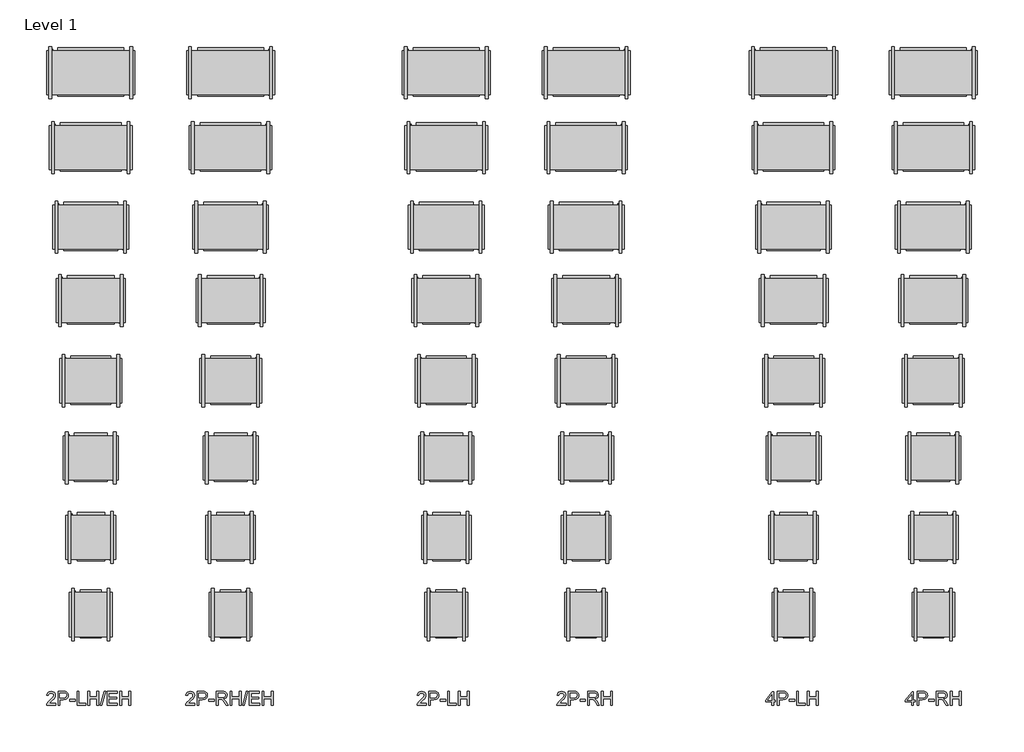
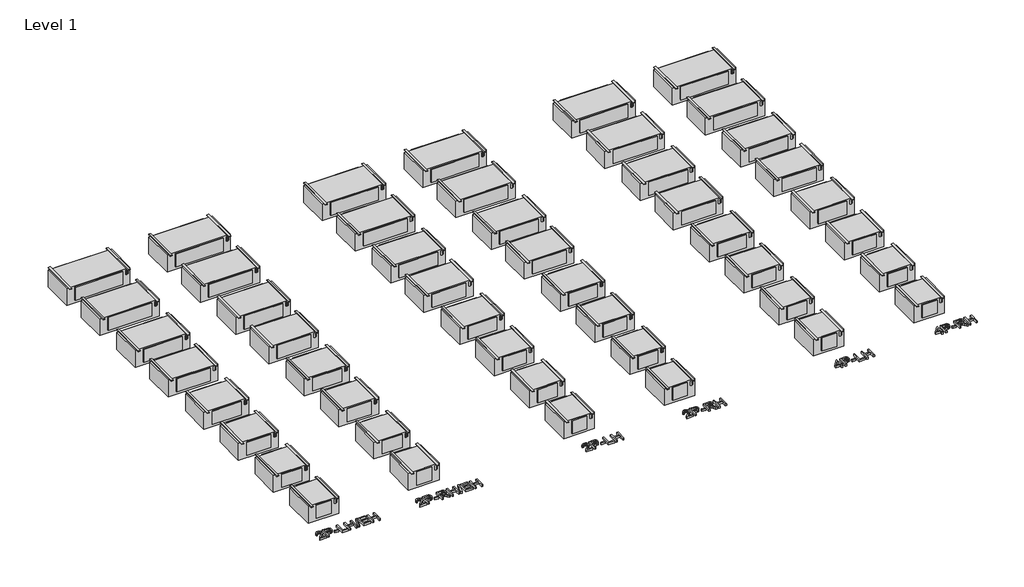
# One storey: 54 proxies.
"""IFC4 building model written with IfcOpenShell, lengths in millimetres."""

from ifc_helpers import new_model, si_unit, origin, origin_with_axes, place, context, project, spatial, polyline, outline, extrude, transform, mapped, element, save
from components import mechanical_equipment_0900cb2e, mechanical_equipment_621a45fb, mechanical_equipment_72f71f54, mechanical_equipment_fdf8b054, mechanical_equipment_0d51c659, mechanical_equipment_b07f00d8, mechanical_equipment_48f2cf5c, mechanical_equipment_720b4839, mechanical_equipment_ffe0c2fb, mechanical_equipment_d076b388, mechanical_equipment_d20f1ccc, mechanical_equipment_d6c2aec6, mechanical_equipment_b749e281, mechanical_equipment_70990f69, mechanical_equipment_768bd8f3, mechanical_equipment_ef4fce89, mechanical_equipment_047bc574, mechanical_equipment_74f1de3b, mechanical_equipment_601507ec, mechanical_equipment_d97851a5, mechanical_equipment_c078d1ac, mechanical_equipment_deb2db8a, mechanical_equipment_18be34ff, mechanical_equipment_be7d65b0, mechanical_equipment_0bdab6c6, mechanical_equipment_6d73ec35, mechanical_equipment_8e86c83e, mechanical_equipment_52986122, mechanical_equipment_d192ed12, mechanical_equipment_969e5153, mechanical_equipment_1356e08d, mechanical_equipment_b50143e9

model = new_model("IFC4")

# Units and contexts
model_context = context("Model", 3, world=origin())
ifc_project = project(units=[si_unit("LENGTHUNIT", "METRE", prefix="MILLI")], contexts=[model_context])

# Site, building, storey
site = spatial("IfcSite", under=ifc_project)
building = spatial("IfcBuilding", under=site)
storey = spatial("IfcBuildingStorey", under=building, Name="Level 1", Elevation=0.0)

# Proxies
placement = place(None, origin())
mechanical_equipment_shape = mechanical_equipment_0900cb2e(model_context)
element("IfcBuildingElementProxy", 1, Name="Concealed_High_Capacity_Horizontal_Cabinet_Fan_Coil_Unit_-_HXY_-_IEC_-_2-Pipe_Cool-EHeat_LH_2022 : Size 06 - 277v/60Hz/1Ph - 6 Row 4.0kW", ObjectType="Concealed_High_Capacity_Horizontal_Cabinet_Fan_Coil_Unit_-_HXY_-_IEC_-_2-Pipe_Cool-EHeat_LH_2022 : Size 06 - 277v/60Hz/1Ph - 6 Row 4.0kW", at=placement, inside=storey, context=model_context, shape_type="MappedRepresentation", body=[
    mapped(mechanical_equipment_shape, transform((-35808.0994409, -7953.1737887, 0.0), x_axis=(1.0, 0.0, 0.0), y_axis=(0.0, 1.0, 0.0), z_axis=(0.0, 0.0, 1.0))),
])
mechanical_equipment_2_shape = mechanical_equipment_621a45fb(model_context)
element("IfcBuildingElementProxy", 2, Name="Concealed_High_Capacity_Horizontal_Cabinet_Fan_Coil_Unit_-_HXY_-_IEC_-_2-Pipe_Cool-EHeat_LH_2022 : Size 08 - 277v/60Hz/1Ph - 6 Row 6.0kW", ObjectType="Concealed_High_Capacity_Horizontal_Cabinet_Fan_Coil_Unit_-_HXY_-_IEC_-_2-Pipe_Cool-EHeat_LH_2022 : Size 08 - 277v/60Hz/1Ph - 6 Row 6.0kW", at=placement, inside=storey, context=model_context, shape_type="MappedRepresentation", body=[
    mapped(mechanical_equipment_2_shape, transform((-35808.0994409, -6529.1242089, 0.0), x_axis=(1.0, 0.0, 0.0), y_axis=(0.0, 1.0, 0.0), z_axis=(0.0, 0.0, 1.0))),
])
mechanical_equipment_3_shape = mechanical_equipment_72f71f54(model_context)
element("IfcBuildingElementProxy", 3, Name="Concealed_High_Capacity_Horizontal_Cabinet_Fan_Coil_Unit_-_HXY_-_IEC_-_2-Pipe_Cool-EHeat_LH_2022 : Size 10 - 277v/60Hz/1Ph - 6 Row 7.0kW", ObjectType="Concealed_High_Capacity_Horizontal_Cabinet_Fan_Coil_Unit_-_HXY_-_IEC_-_2-Pipe_Cool-EHeat_LH_2022 : Size 10 - 277v/60Hz/1Ph - 6 Row 7.0kW", at=placement, inside=storey, context=model_context, shape_type="MappedRepresentation", body=[
    mapped(mechanical_equipment_3_shape, transform((-35808.0994409, -5064.3874982, 0.0), x_axis=(1.0, 0.0, 0.0), y_axis=(0.0, 1.0, 0.0), z_axis=(0.0, 0.0, 1.0))),
])
mechanical_equipment_4_shape = mechanical_equipment_fdf8b054(model_context)
element("IfcBuildingElementProxy", 4, Name="Concealed_High_Capacity_Horizontal_Cabinet_Fan_Coil_Unit_-_HXY_-_IEC_-_2-Pipe_Cool-EHeat_LH_2022 : Size 12 - 277v/60Hz/1Ph - 6 Row 9.0kW", ObjectType="Concealed_High_Capacity_Horizontal_Cabinet_Fan_Coil_Unit_-_HXY_-_IEC_-_2-Pipe_Cool-EHeat_LH_2022 : Size 12 - 277v/60Hz/1Ph - 6 Row 9.0kW", at=placement, inside=storey, context=model_context, shape_type="MappedRepresentation", body=[
    mapped(mechanical_equipment_4_shape, transform((-35808.0994409, -3640.3379184, 0.0), x_axis=(1.0, 0.0, 0.0), y_axis=(0.0, 1.0, 0.0), z_axis=(0.0, 0.0, 1.0))),
])
mechanical_equipment_5_shape = mechanical_equipment_0d51c659(model_context)
element("IfcBuildingElementProxy", 5, Name="Concealed_High_Capacity_Horizontal_Cabinet_Fan_Coil_Unit_-_HXY_-_IEC_-_2-Pipe_Cool-EHeat_LH_2022 : Size 14 - 277v/60Hz/1Ph - 6 Row 10.0kW", ObjectType="Concealed_High_Capacity_Horizontal_Cabinet_Fan_Coil_Unit_-_HXY_-_IEC_-_2-Pipe_Cool-EHeat_LH_2022 : Size 14 - 277v/60Hz/1Ph - 6 Row 10.0kW", at=placement, inside=storey, context=model_context, shape_type="MappedRepresentation", body=[
    mapped(mechanical_equipment_5_shape, transform((-35808.0994409, -2162.0388308, 0.0), x_axis=(1.0, 0.0, 0.0), y_axis=(0.0, 1.0, 0.0), z_axis=(0.0, 0.0, 1.0))),
])
mechanical_equipment_6_shape = mechanical_equipment_b07f00d8(model_context)
element("IfcBuildingElementProxy", 6, Name="Concealed_High_Capacity_Horizontal_Cabinet_Fan_Coil_Unit_-_HXY_-_IEC_-_2-Pipe_Cool-EHeat_LH_2022 : Size 16 - 277v/60Hz/1Ph - 6 Row 12.0kW", ObjectType="Concealed_High_Capacity_Horizontal_Cabinet_Fan_Coil_Unit_-_HXY_-_IEC_-_2-Pipe_Cool-EHeat_LH_2022 : Size 16 - 277v/60Hz/1Ph - 6 Row 12.0kW", at=placement, inside=storey, context=model_context, shape_type="MappedRepresentation", body=[
    mapped(mechanical_equipment_6_shape, transform((-35808.0994409, -805.8011357, 0.0), x_axis=(1.0, 0.0, 0.0), y_axis=(0.0, 1.0, 0.0), z_axis=(0.0, 0.0, 1.0))),
])
mechanical_equipment_7_shape = mechanical_equipment_48f2cf5c(model_context)
element("IfcBuildingElementProxy", 7, Name="Concealed_High_Capacity_Horizontal_Cabinet_Fan_Coil_Unit_-_HXY_-_IEC_-_2-Pipe_Cool-EHeat_LH_2022 : Size 18 - 277v/60Hz/1Ph - 6 Row 12.0kW", ObjectType="Concealed_High_Capacity_Horizontal_Cabinet_Fan_Coil_Unit_-_HXY_-_IEC_-_2-Pipe_Cool-EHeat_LH_2022 : Size 18 - 277v/60Hz/1Ph - 6 Row 12.0kW", at=placement, inside=storey, context=model_context, shape_type="MappedRepresentation", body=[
    mapped(mechanical_equipment_7_shape, transform((-35808.0994409, 658.9355749, 0.0), x_axis=(1.0, 0.0, 0.0), y_axis=(0.0, 1.0, 0.0), z_axis=(0.0, 0.0, 1.0))),
])
mechanical_equipment_8_shape = mechanical_equipment_720b4839(model_context)
element("IfcBuildingElementProxy", 8, Name="Concealed_High_Capacity_Horizontal_Cabinet_Fan_Coil_Unit_-_HXY_-_IEC_-_2-Pipe_Cool-EHeat_LH_2022 : Size 20 - 277v/60Hz/1Ph - 6 Row 14.0kW", ObjectType="Concealed_High_Capacity_Horizontal_Cabinet_Fan_Coil_Unit_-_HXY_-_IEC_-_2-Pipe_Cool-EHeat_LH_2022 : Size 20 - 277v/60Hz/1Ph - 6 Row 14.0kW", at=placement, inside=storey, context=model_context, shape_type="MappedRepresentation", body=[
    mapped(mechanical_equipment_8_shape, transform((-35808.0994409, 2042.2980239, 0.0), x_axis=(1.0, 0.0, 0.0), y_axis=(0.0, 1.0, 0.0), z_axis=(0.0, 0.0, 1.0))),
])
mechanical_equipment_9_shape = mechanical_equipment_ffe0c2fb(model_context)
element("IfcBuildingElementProxy", 9, Name="Concealed_High_Capacity_Horizontal_Cabinet_Fan_Coil_Unit_-_HXY_-_IEC_-_4-Pipe_LH_2022 : Size 06 - 277v/60Hz/1Ph - 6/2 Coil", ObjectType="Concealed_High_Capacity_Horizontal_Cabinet_Fan_Coil_Unit_-_HXY_-_IEC_-_4-Pipe_LH_2022 : Size 06 - 277v/60Hz/1Ph - 6/2 Coil", at=placement, inside=storey, context=model_context, shape_type="MappedRepresentation", body=[
    mapped(mechanical_equipment_9_shape, transform((-22854.0994409, -7953.1737887, 0.0), x_axis=(1.0, 0.0, 0.0), y_axis=(0.0, 1.0, 0.0), z_axis=(0.0, 0.0, 1.0))),
])
mechanical_equipment_10_shape = mechanical_equipment_d076b388(model_context)
element("IfcBuildingElementProxy", 10, Name="Concealed_High_Capacity_Horizontal_Cabinet_Fan_Coil_Unit_-_HXY_-_IEC_-_4-Pipe_LH_2022 : Size 08 - 277v/60Hz/1Ph - 6/2 Coil", ObjectType="Concealed_High_Capacity_Horizontal_Cabinet_Fan_Coil_Unit_-_HXY_-_IEC_-_4-Pipe_LH_2022 : Size 08 - 277v/60Hz/1Ph - 6/2 Coil", at=placement, inside=storey, context=model_context, shape_type="MappedRepresentation", body=[
    mapped(mechanical_equipment_10_shape, transform((-22854.0994409, -6529.1242089, 0.0), x_axis=(1.0, 0.0, 0.0), y_axis=(0.0, 1.0, 0.0), z_axis=(0.0, 0.0, 1.0))),
])
mechanical_equipment_11_shape = mechanical_equipment_d20f1ccc(model_context)
element("IfcBuildingElementProxy", 11, Name="Concealed_High_Capacity_Horizontal_Cabinet_Fan_Coil_Unit_-_HXY_-_IEC_-_4-Pipe_LH_2022 : Size 10 - 277v/60Hz/1Ph - 6/2 Coil", ObjectType="Concealed_High_Capacity_Horizontal_Cabinet_Fan_Coil_Unit_-_HXY_-_IEC_-_4-Pipe_LH_2022 : Size 10 - 277v/60Hz/1Ph - 6/2 Coil", at=placement, inside=storey, context=model_context, shape_type="MappedRepresentation", body=[
    mapped(mechanical_equipment_11_shape, transform((-22854.0994409, -5064.3874982, 0.0), x_axis=(1.0, 0.0, 0.0), y_axis=(0.0, 1.0, 0.0), z_axis=(0.0, 0.0, 1.0))),
])
mechanical_equipment_12_shape = mechanical_equipment_d6c2aec6(model_context)
element("IfcBuildingElementProxy", 12, Name="Concealed_High_Capacity_Horizontal_Cabinet_Fan_Coil_Unit_-_HXY_-_IEC_-_4-Pipe_LH_2022 : Size 12 - 277v/60Hz/1Ph - 6/2 Coil", ObjectType="Concealed_High_Capacity_Horizontal_Cabinet_Fan_Coil_Unit_-_HXY_-_IEC_-_4-Pipe_LH_2022 : Size 12 - 277v/60Hz/1Ph - 6/2 Coil", at=placement, inside=storey, context=model_context, shape_type="MappedRepresentation", body=[
    mapped(mechanical_equipment_12_shape, transform((-22854.0994409, -3640.3379184, 0.0), x_axis=(1.0, 0.0, 0.0), y_axis=(0.0, 1.0, 0.0), z_axis=(0.0, 0.0, 1.0))),
])
mechanical_equipment_13_shape = mechanical_equipment_b749e281(model_context)
element("IfcBuildingElementProxy", 13, Name="Concealed_High_Capacity_Horizontal_Cabinet_Fan_Coil_Unit_-_HXY_-_IEC_-_4-Pipe_LH_2022 : Size 14 - 277v/60Hz/1Ph - 6/2 Coil", ObjectType="Concealed_High_Capacity_Horizontal_Cabinet_Fan_Coil_Unit_-_HXY_-_IEC_-_4-Pipe_LH_2022 : Size 14 - 277v/60Hz/1Ph - 6/2 Coil", at=placement, inside=storey, context=model_context, shape_type="MappedRepresentation", body=[
    mapped(mechanical_equipment_13_shape, transform((-22854.0994409, -2162.0388308, 0.0), x_axis=(1.0, 0.0, 0.0), y_axis=(0.0, 1.0, 0.0), z_axis=(0.0, 0.0, 1.0))),
])
mechanical_equipment_14_shape = mechanical_equipment_70990f69(model_context)
element("IfcBuildingElementProxy", 14, Name="Concealed_High_Capacity_Horizontal_Cabinet_Fan_Coil_Unit_-_HXY_-_IEC_-_4-Pipe_LH_2022 : Size 16 - 277v/60Hz/1Ph - 6/2 Coil", ObjectType="Concealed_High_Capacity_Horizontal_Cabinet_Fan_Coil_Unit_-_HXY_-_IEC_-_4-Pipe_LH_2022 : Size 16 - 277v/60Hz/1Ph - 6/2 Coil", at=placement, inside=storey, context=model_context, shape_type="MappedRepresentation", body=[
    mapped(mechanical_equipment_14_shape, transform((-22854.0994409, -805.8011357, 0.0), x_axis=(1.0, 0.0, 0.0), y_axis=(0.0, 1.0, 0.0), z_axis=(0.0, 0.0, 1.0))),
])
mechanical_equipment_15_shape = mechanical_equipment_768bd8f3(model_context)
element("IfcBuildingElementProxy", 15, Name="Concealed_High_Capacity_Horizontal_Cabinet_Fan_Coil_Unit_-_HXY_-_IEC_-_4-Pipe_LH_2022 : Size 18 - 277v/60Hz/1Ph - 6/2 Coil", ObjectType="Concealed_High_Capacity_Horizontal_Cabinet_Fan_Coil_Unit_-_HXY_-_IEC_-_4-Pipe_LH_2022 : Size 18 - 277v/60Hz/1Ph - 6/2 Coil", at=placement, inside=storey, context=model_context, shape_type="MappedRepresentation", body=[
    mapped(mechanical_equipment_15_shape, transform((-22854.0994409, 658.9355749, 0.0), x_axis=(1.0, 0.0, 0.0), y_axis=(0.0, 1.0, 0.0), z_axis=(0.0, 0.0, 1.0))),
])
mechanical_equipment_16_shape = mechanical_equipment_ef4fce89(model_context)
element("IfcBuildingElementProxy", 16, Name="Concealed_High_Capacity_Horizontal_Cabinet_Fan_Coil_Unit_-_HXY_-_IEC_-_4-Pipe_LH_2022 : Size 20 - 277v/60Hz/1Ph - 6/2 Coil", ObjectType="Concealed_High_Capacity_Horizontal_Cabinet_Fan_Coil_Unit_-_HXY_-_IEC_-_4-Pipe_LH_2022 : Size 20 - 277v/60Hz/1Ph - 6/2 Coil", at=placement, inside=storey, context=model_context, shape_type="MappedRepresentation", body=[
    mapped(mechanical_equipment_16_shape, transform((-22854.0994409, 2042.2980239, 0.0), x_axis=(1.0, 0.0, 0.0), y_axis=(0.0, 1.0, 0.0), z_axis=(0.0, 0.0, 1.0))),
])
mechanical_equipment_17_shape = mechanical_equipment_047bc574(model_context)
element("IfcBuildingElementProxy", 17, Name="Concealed_High_Capacity_Horizontal_Cabinet_Fan_Coil_Unit_-_HXY_-_IEC_-_2-Pipe_Cool-EHeat_RH_2022 : Size 06 - 277v/60Hz/1Ph - 6 Row 4.0kW", ObjectType="Concealed_High_Capacity_Horizontal_Cabinet_Fan_Coil_Unit_-_HXY_-_IEC_-_2-Pipe_Cool-EHeat_RH_2022 : Size 06 - 277v/60Hz/1Ph - 6 Row 4.0kW", at=placement, inside=storey, context=model_context, shape_type="MappedRepresentation", body=[
    mapped(mechanical_equipment_17_shape, transform((-33231.2478203, -7953.1737887, 0.0), x_axis=(1.0, 0.0, 0.0), y_axis=(0.0, 1.0, 0.0), z_axis=(0.0, 0.0, 1.0))),
])
mechanical_equipment_18_shape = mechanical_equipment_74f1de3b(model_context)
element("IfcBuildingElementProxy", 18, Name="Concealed_High_Capacity_Horizontal_Cabinet_Fan_Coil_Unit_-_HXY_-_IEC_-_2-Pipe_Cool-EHeat_RH_2022 : Size 08 - 277v/60Hz/1Ph - 6 Row 6.0kW", ObjectType="Concealed_High_Capacity_Horizontal_Cabinet_Fan_Coil_Unit_-_HXY_-_IEC_-_2-Pipe_Cool-EHeat_RH_2022 : Size 08 - 277v/60Hz/1Ph - 6 Row 6.0kW", at=placement, inside=storey, context=model_context, shape_type="MappedRepresentation", body=[
    mapped(mechanical_equipment_18_shape, transform((-33231.2478203, -6529.1242089, 0.0), x_axis=(1.0, 0.0, 0.0), y_axis=(0.0, 1.0, 0.0), z_axis=(0.0, 0.0, 1.0))),
])
mechanical_equipment_19_shape = mechanical_equipment_601507ec(model_context)
element("IfcBuildingElementProxy", 19, Name="Concealed_High_Capacity_Horizontal_Cabinet_Fan_Coil_Unit_-_HXY_-_IEC_-_2-Pipe_Cool-EHeat_RH_2022 : Size 10 - 277v/60Hz/1Ph - 6 Row 7.0kW", ObjectType="Concealed_High_Capacity_Horizontal_Cabinet_Fan_Coil_Unit_-_HXY_-_IEC_-_2-Pipe_Cool-EHeat_RH_2022 : Size 10 - 277v/60Hz/1Ph - 6 Row 7.0kW", at=placement, inside=storey, context=model_context, shape_type="MappedRepresentation", body=[
    mapped(mechanical_equipment_19_shape, transform((-33231.2478203, -5064.3874982, 0.0), x_axis=(1.0, 0.0, 0.0), y_axis=(0.0, 1.0, 0.0), z_axis=(0.0, 0.0, 1.0))),
])
mechanical_equipment_20_shape = mechanical_equipment_d97851a5(model_context)
element("IfcBuildingElementProxy", 20, Name="Concealed_High_Capacity_Horizontal_Cabinet_Fan_Coil_Unit_-_HXY_-_IEC_-_2-Pipe_Cool-EHeat_RH_2022 : Size 12 - 277v/60Hz/1Ph - 6 Row 9.0kW", ObjectType="Concealed_High_Capacity_Horizontal_Cabinet_Fan_Coil_Unit_-_HXY_-_IEC_-_2-Pipe_Cool-EHeat_RH_2022 : Size 12 - 277v/60Hz/1Ph - 6 Row 9.0kW", at=placement, inside=storey, context=model_context, shape_type="MappedRepresentation", body=[
    mapped(mechanical_equipment_20_shape, transform((-33231.2478203, -3640.3379184, 0.0), x_axis=(1.0, 0.0, 0.0), y_axis=(0.0, 1.0, 0.0), z_axis=(0.0, 0.0, 1.0))),
])
mechanical_equipment_21_shape = mechanical_equipment_c078d1ac(model_context)
element("IfcBuildingElementProxy", 21, Name="Concealed_High_Capacity_Horizontal_Cabinet_Fan_Coil_Unit_-_HXY_-_IEC_-_2-Pipe_Cool-EHeat_RH_2022 : Size 14 - 277v/60Hz/1Ph - 6 Row 10.0kW", ObjectType="Concealed_High_Capacity_Horizontal_Cabinet_Fan_Coil_Unit_-_HXY_-_IEC_-_2-Pipe_Cool-EHeat_RH_2022 : Size 14 - 277v/60Hz/1Ph - 6 Row 10.0kW", at=placement, inside=storey, context=model_context, shape_type="MappedRepresentation", body=[
    mapped(mechanical_equipment_21_shape, transform((-33231.2478203, -2162.0388308, 0.0), x_axis=(1.0, 0.0, 0.0), y_axis=(0.0, 1.0, 0.0), z_axis=(0.0, 0.0, 1.0))),
])
mechanical_equipment_22_shape = mechanical_equipment_deb2db8a(model_context)
element("IfcBuildingElementProxy", 22, Name="Concealed_High_Capacity_Horizontal_Cabinet_Fan_Coil_Unit_-_HXY_-_IEC_-_2-Pipe_Cool-EHeat_RH_2022 : Size 16 - 277v/60Hz/1Ph - 6 Row 12.0kW", ObjectType="Concealed_High_Capacity_Horizontal_Cabinet_Fan_Coil_Unit_-_HXY_-_IEC_-_2-Pipe_Cool-EHeat_RH_2022 : Size 16 - 277v/60Hz/1Ph - 6 Row 12.0kW", at=placement, inside=storey, context=model_context, shape_type="MappedRepresentation", body=[
    mapped(mechanical_equipment_22_shape, transform((-33231.2478203, -805.8011357, 0.0), x_axis=(1.0, 0.0, 0.0), y_axis=(0.0, 1.0, 0.0), z_axis=(0.0, 0.0, 1.0))),
])
mechanical_equipment_23_shape = mechanical_equipment_18be34ff(model_context)
element("IfcBuildingElementProxy", 23, Name="Concealed_High_Capacity_Horizontal_Cabinet_Fan_Coil_Unit_-_HXY_-_IEC_-_2-Pipe_Cool-EHeat_RH_2022 : Size 18 - 277v/60Hz/1Ph - 6 Row 12.0kW", ObjectType="Concealed_High_Capacity_Horizontal_Cabinet_Fan_Coil_Unit_-_HXY_-_IEC_-_2-Pipe_Cool-EHeat_RH_2022 : Size 18 - 277v/60Hz/1Ph - 6 Row 12.0kW", at=placement, inside=storey, context=model_context, shape_type="MappedRepresentation", body=[
    mapped(mechanical_equipment_23_shape, transform((-33231.2478203, 658.9355749, 0.0), x_axis=(1.0, 0.0, 0.0), y_axis=(0.0, 1.0, 0.0), z_axis=(0.0, 0.0, 1.0))),
])
mechanical_equipment_24_shape = mechanical_equipment_be7d65b0(model_context)
element("IfcBuildingElementProxy", 24, Name="Concealed_High_Capacity_Horizontal_Cabinet_Fan_Coil_Unit_-_HXY_-_IEC_-_2-Pipe_Cool-EHeat_RH_2022 : Size 20 - 277v/60Hz/1Ph - 6 Row 14.0kW", ObjectType="Concealed_High_Capacity_Horizontal_Cabinet_Fan_Coil_Unit_-_HXY_-_IEC_-_2-Pipe_Cool-EHeat_RH_2022 : Size 20 - 277v/60Hz/1Ph - 6 Row 14.0kW", at=placement, inside=storey, context=model_context, shape_type="MappedRepresentation", body=[
    mapped(mechanical_equipment_24_shape, transform((-33231.2478203, 2042.2980239, 0.0), x_axis=(1.0, 0.0, 0.0), y_axis=(0.0, 1.0, 0.0), z_axis=(0.0, 0.0, 1.0))),
])
element("IfcBuildingElementProxy", 25, Name="Concealed_High_Capacity_Horizontal_Cabinet_Fan_Coil_Unit_-_HXY_-_IEC_-_2-Pipe_LH_2022 : Size 06 - 277v/60Hz/1Ph - 6 Row 4.0kW", ObjectType="Concealed_High_Capacity_Horizontal_Cabinet_Fan_Coil_Unit_-_HXY_-_IEC_-_2-Pipe_LH_2022 : Size 06 - 277v/60Hz/1Ph - 6 Row 4.0kW", at=placement, inside=storey, context=model_context, shape_type="MappedRepresentation", body=[
    mapped(mechanical_equipment_shape, transform((-29254.8994409, -7953.1737887, 0.0), x_axis=(1.0, 0.0, 0.0), y_axis=(0.0, 1.0, 0.0), z_axis=(0.0, 0.0, 1.0))),
])
element("IfcBuildingElementProxy", 26, Name="Concealed_High_Capacity_Horizontal_Cabinet_Fan_Coil_Unit_-_HXY_-_IEC_-_2-Pipe_LH_2022 : Size 08 - 277v/60Hz/1Ph - 6 Row 6.0kW", ObjectType="Concealed_High_Capacity_Horizontal_Cabinet_Fan_Coil_Unit_-_HXY_-_IEC_-_2-Pipe_LH_2022 : Size 08 - 277v/60Hz/1Ph - 6 Row 6.0kW", at=placement, inside=storey, context=model_context, shape_type="MappedRepresentation", body=[
    mapped(mechanical_equipment_2_shape, transform((-29254.8994409, -6529.1242089, 0.0), x_axis=(1.0, 0.0, 0.0), y_axis=(0.0, 1.0, 0.0), z_axis=(0.0, 0.0, 1.0))),
])
element("IfcBuildingElementProxy", 27, Name="Concealed_High_Capacity_Horizontal_Cabinet_Fan_Coil_Unit_-_HXY_-_IEC_-_2-Pipe_LH_2022 : Size 10 - 277v/60Hz/1Ph - 6 Row 7.0kW", ObjectType="Concealed_High_Capacity_Horizontal_Cabinet_Fan_Coil_Unit_-_HXY_-_IEC_-_2-Pipe_LH_2022 : Size 10 - 277v/60Hz/1Ph - 6 Row 7.0kW", at=placement, inside=storey, context=model_context, shape_type="MappedRepresentation", body=[
    mapped(mechanical_equipment_3_shape, transform((-29254.8994409, -5064.3874982, 0.0), x_axis=(1.0, 0.0, 0.0), y_axis=(0.0, 1.0, 0.0), z_axis=(0.0, 0.0, 1.0))),
])
element("IfcBuildingElementProxy", 28, Name="Concealed_High_Capacity_Horizontal_Cabinet_Fan_Coil_Unit_-_HXY_-_IEC_-_2-Pipe_LH_2022 : Size 12 - 277v/60Hz/1Ph - 6 Row 9.0kW", ObjectType="Concealed_High_Capacity_Horizontal_Cabinet_Fan_Coil_Unit_-_HXY_-_IEC_-_2-Pipe_LH_2022 : Size 12 - 277v/60Hz/1Ph - 6 Row 9.0kW", at=placement, inside=storey, context=model_context, shape_type="MappedRepresentation", body=[
    mapped(mechanical_equipment_4_shape, transform((-29254.8994409, -3640.3379184, 0.0), x_axis=(1.0, 0.0, 0.0), y_axis=(0.0, 1.0, 0.0), z_axis=(0.0, 0.0, 1.0))),
])
element("IfcBuildingElementProxy", 29, Name="Concealed_High_Capacity_Horizontal_Cabinet_Fan_Coil_Unit_-_HXY_-_IEC_-_2-Pipe_LH_2022 : Size 14 - 277v/60Hz/1Ph - 6 Row 10.0kW", ObjectType="Concealed_High_Capacity_Horizontal_Cabinet_Fan_Coil_Unit_-_HXY_-_IEC_-_2-Pipe_LH_2022 : Size 14 - 277v/60Hz/1Ph - 6 Row 10.0kW", at=placement, inside=storey, context=model_context, shape_type="MappedRepresentation", body=[
    mapped(mechanical_equipment_5_shape, transform((-29254.8994409, -2162.0388308, 0.0), x_axis=(1.0, 0.0, 0.0), y_axis=(0.0, 1.0, 0.0), z_axis=(0.0, 0.0, 1.0))),
])
element("IfcBuildingElementProxy", 30, Name="Concealed_High_Capacity_Horizontal_Cabinet_Fan_Coil_Unit_-_HXY_-_IEC_-_2-Pipe_LH_2022 : Size 16 - 277v/60Hz/1Ph - 6 Row 12.0kW", ObjectType="Concealed_High_Capacity_Horizontal_Cabinet_Fan_Coil_Unit_-_HXY_-_IEC_-_2-Pipe_LH_2022 : Size 16 - 277v/60Hz/1Ph - 6 Row 12.0kW", at=placement, inside=storey, context=model_context, shape_type="MappedRepresentation", body=[
    mapped(mechanical_equipment_6_shape, transform((-29254.8994409, -805.8011357, 0.0), x_axis=(1.0, 0.0, 0.0), y_axis=(0.0, 1.0, 0.0), z_axis=(0.0, 0.0, 1.0))),
])
element("IfcBuildingElementProxy", 31, Name="Concealed_High_Capacity_Horizontal_Cabinet_Fan_Coil_Unit_-_HXY_-_IEC_-_2-Pipe_LH_2022 : Size 18 - 277v/60Hz/1Ph - 6 Row 12.0kW", ObjectType="Concealed_High_Capacity_Horizontal_Cabinet_Fan_Coil_Unit_-_HXY_-_IEC_-_2-Pipe_LH_2022 : Size 18 - 277v/60Hz/1Ph - 6 Row 12.0kW", at=placement, inside=storey, context=model_context, shape_type="MappedRepresentation", body=[
    mapped(mechanical_equipment_7_shape, transform((-29254.8994409, 658.9355749, 0.0), x_axis=(1.0, 0.0, 0.0), y_axis=(0.0, 1.0, 0.0), z_axis=(0.0, 0.0, 1.0))),
])
element("IfcBuildingElementProxy", 32, Name="Concealed_High_Capacity_Horizontal_Cabinet_Fan_Coil_Unit_-_HXY_-_IEC_-_2-Pipe_LH_2022 : Size 20 - 277v/60Hz/1Ph - 6 Row 14.0kW", ObjectType="Concealed_High_Capacity_Horizontal_Cabinet_Fan_Coil_Unit_-_HXY_-_IEC_-_2-Pipe_LH_2022 : Size 20 - 277v/60Hz/1Ph - 6 Row 14.0kW", at=placement, inside=storey, context=model_context, shape_type="MappedRepresentation", body=[
    mapped(mechanical_equipment_8_shape, transform((-29254.8994409, 2042.2980239, 0.0), x_axis=(1.0, 0.0, 0.0), y_axis=(0.0, 1.0, 0.0), z_axis=(0.0, 0.0, 1.0))),
])
element("IfcBuildingElementProxy", 33, Name="Concealed_High_Capacity_Horizontal_Cabinet_Fan_Coil_Unit_-_HXY_-_IEC_-_2-Pipe_RH_2022 : Size 06 - 277v/60Hz/1Ph - 6 Row 4.0kW", ObjectType="Concealed_High_Capacity_Horizontal_Cabinet_Fan_Coil_Unit_-_HXY_-_IEC_-_2-Pipe_RH_2022 : Size 06 - 277v/60Hz/1Ph - 6 Row 4.0kW", at=placement, inside=storey, context=model_context, shape_type="MappedRepresentation", body=[
    mapped(mechanical_equipment_17_shape, transform((-26678.0478203, -7953.1737887, 0.0), x_axis=(1.0, 0.0, 0.0), y_axis=(0.0, 1.0, 0.0), z_axis=(0.0, 0.0, 1.0))),
])
element("IfcBuildingElementProxy", 34, Name="Concealed_High_Capacity_Horizontal_Cabinet_Fan_Coil_Unit_-_HXY_-_IEC_-_2-Pipe_RH_2022 : Size 08 - 277v/60Hz/1Ph - 6 Row 6.0kW", ObjectType="Concealed_High_Capacity_Horizontal_Cabinet_Fan_Coil_Unit_-_HXY_-_IEC_-_2-Pipe_RH_2022 : Size 08 - 277v/60Hz/1Ph - 6 Row 6.0kW", at=placement, inside=storey, context=model_context, shape_type="MappedRepresentation", body=[
    mapped(mechanical_equipment_18_shape, transform((-26678.0478203, -6529.1242089, 0.0), x_axis=(1.0, 0.0, 0.0), y_axis=(0.0, 1.0, 0.0), z_axis=(0.0, 0.0, 1.0))),
])
element("IfcBuildingElementProxy", 35, Name="Concealed_High_Capacity_Horizontal_Cabinet_Fan_Coil_Unit_-_HXY_-_IEC_-_2-Pipe_RH_2022 : Size 10 - 277v/60Hz/1Ph - 6 Row 7.0kW", ObjectType="Concealed_High_Capacity_Horizontal_Cabinet_Fan_Coil_Unit_-_HXY_-_IEC_-_2-Pipe_RH_2022 : Size 10 - 277v/60Hz/1Ph - 6 Row 7.0kW", at=placement, inside=storey, context=model_context, shape_type="MappedRepresentation", body=[
    mapped(mechanical_equipment_19_shape, transform((-26678.0478203, -5064.3874982, 0.0), x_axis=(1.0, 0.0, 0.0), y_axis=(0.0, 1.0, 0.0), z_axis=(0.0, 0.0, 1.0))),
])
element("IfcBuildingElementProxy", 36, Name="Concealed_High_Capacity_Horizontal_Cabinet_Fan_Coil_Unit_-_HXY_-_IEC_-_2-Pipe_RH_2022 : Size 12 - 277v/60Hz/1Ph - 6 Row 9.0kW", ObjectType="Concealed_High_Capacity_Horizontal_Cabinet_Fan_Coil_Unit_-_HXY_-_IEC_-_2-Pipe_RH_2022 : Size 12 - 277v/60Hz/1Ph - 6 Row 9.0kW", at=placement, inside=storey, context=model_context, shape_type="MappedRepresentation", body=[
    mapped(mechanical_equipment_20_shape, transform((-26678.0478203, -3640.3379184, 0.0), x_axis=(1.0, 0.0, 0.0), y_axis=(0.0, 1.0, 0.0), z_axis=(0.0, 0.0, 1.0))),
])
element("IfcBuildingElementProxy", 37, Name="Concealed_High_Capacity_Horizontal_Cabinet_Fan_Coil_Unit_-_HXY_-_IEC_-_2-Pipe_RH_2022 : Size 14 - 277v/60Hz/1Ph - 6 Row 10.0kW", ObjectType="Concealed_High_Capacity_Horizontal_Cabinet_Fan_Coil_Unit_-_HXY_-_IEC_-_2-Pipe_RH_2022 : Size 14 - 277v/60Hz/1Ph - 6 Row 10.0kW", at=placement, inside=storey, context=model_context, shape_type="MappedRepresentation", body=[
    mapped(mechanical_equipment_21_shape, transform((-26678.0478203, -2162.0388308, 0.0), x_axis=(1.0, 0.0, 0.0), y_axis=(0.0, 1.0, 0.0), z_axis=(0.0, 0.0, 1.0))),
])
element("IfcBuildingElementProxy", 38, Name="Concealed_High_Capacity_Horizontal_Cabinet_Fan_Coil_Unit_-_HXY_-_IEC_-_2-Pipe_RH_2022 : Size 16 - 277v/60Hz/1Ph - 6 Row 12.0kW", ObjectType="Concealed_High_Capacity_Horizontal_Cabinet_Fan_Coil_Unit_-_HXY_-_IEC_-_2-Pipe_RH_2022 : Size 16 - 277v/60Hz/1Ph - 6 Row 12.0kW", at=placement, inside=storey, context=model_context, shape_type="MappedRepresentation", body=[
    mapped(mechanical_equipment_22_shape, transform((-26678.0478203, -805.8011357, 0.0), x_axis=(1.0, 0.0, 0.0), y_axis=(0.0, 1.0, 0.0), z_axis=(0.0, 0.0, 1.0))),
])
element("IfcBuildingElementProxy", 39, Name="Concealed_High_Capacity_Horizontal_Cabinet_Fan_Coil_Unit_-_HXY_-_IEC_-_2-Pipe_RH_2022 : Size 18 - 277v/60Hz/1Ph - 6 Row 12.0kW", ObjectType="Concealed_High_Capacity_Horizontal_Cabinet_Fan_Coil_Unit_-_HXY_-_IEC_-_2-Pipe_RH_2022 : Size 18 - 277v/60Hz/1Ph - 6 Row 12.0kW", at=placement, inside=storey, context=model_context, shape_type="MappedRepresentation", body=[
    mapped(mechanical_equipment_23_shape, transform((-26678.0478203, 658.9355749, 0.0), x_axis=(1.0, 0.0, 0.0), y_axis=(0.0, 1.0, 0.0), z_axis=(0.0, 0.0, 1.0))),
])
element("IfcBuildingElementProxy", 40, Name="Concealed_High_Capacity_Horizontal_Cabinet_Fan_Coil_Unit_-_HXY_-_IEC_-_2-Pipe_RH_2022 : Size 20 - 277v/60Hz/1Ph - 6 Row 14.0kW", ObjectType="Concealed_High_Capacity_Horizontal_Cabinet_Fan_Coil_Unit_-_HXY_-_IEC_-_2-Pipe_RH_2022 : Size 20 - 277v/60Hz/1Ph - 6 Row 14.0kW", at=placement, inside=storey, context=model_context, shape_type="MappedRepresentation", body=[
    mapped(mechanical_equipment_24_shape, transform((-26678.0478203, 2042.2980239, 0.0), x_axis=(1.0, 0.0, 0.0), y_axis=(0.0, 1.0, 0.0), z_axis=(0.0, 0.0, 1.0))),
])
mechanical_equipment_25_shape = mechanical_equipment_0bdab6c6(model_context)
element("IfcBuildingElementProxy", 41, Name="Concealed_High_Capacity_Horizontal_Cabinet_Fan_Coil_Unit_-_HXY_-_IEC_-_4-Pipe_RH_2022 : Size 06 - 277v/60Hz/1Ph - 6/2 Coil", ObjectType="Concealed_High_Capacity_Horizontal_Cabinet_Fan_Coil_Unit_-_HXY_-_IEC_-_4-Pipe_RH_2022 : Size 06 - 277v/60Hz/1Ph - 6/2 Coil", at=placement, inside=storey, context=model_context, shape_type="MappedRepresentation", body=[
    mapped(mechanical_equipment_25_shape, transform((-20277.2478203, -7953.1737887, 0.0), x_axis=(1.0, 0.0, 0.0), y_axis=(0.0, 1.0, 0.0), z_axis=(0.0, 0.0, 1.0))),
])
mechanical_equipment_26_shape = mechanical_equipment_6d73ec35(model_context)
element("IfcBuildingElementProxy", 42, Name="Concealed_High_Capacity_Horizontal_Cabinet_Fan_Coil_Unit_-_HXY_-_IEC_-_4-Pipe_RH_2022 : Size 08 - 277v/60Hz/1Ph - 6/2 Coil", ObjectType="Concealed_High_Capacity_Horizontal_Cabinet_Fan_Coil_Unit_-_HXY_-_IEC_-_4-Pipe_RH_2022 : Size 08 - 277v/60Hz/1Ph - 6/2 Coil", at=placement, inside=storey, context=model_context, shape_type="MappedRepresentation", body=[
    mapped(mechanical_equipment_26_shape, transform((-20277.2478203, -6529.1242089, 0.0), x_axis=(1.0, 0.0, 0.0), y_axis=(0.0, 1.0, 0.0), z_axis=(0.0, 0.0, 1.0))),
])
mechanical_equipment_27_shape = mechanical_equipment_8e86c83e(model_context)
element("IfcBuildingElementProxy", 43, Name="Concealed_High_Capacity_Horizontal_Cabinet_Fan_Coil_Unit_-_HXY_-_IEC_-_4-Pipe_RH_2022 : Size 10 - 277v/60Hz/1Ph - 6/2 Coil", ObjectType="Concealed_High_Capacity_Horizontal_Cabinet_Fan_Coil_Unit_-_HXY_-_IEC_-_4-Pipe_RH_2022 : Size 10 - 277v/60Hz/1Ph - 6/2 Coil", at=placement, inside=storey, context=model_context, shape_type="MappedRepresentation", body=[
    mapped(mechanical_equipment_27_shape, transform((-20277.2478203, -5064.3874982, 0.0), x_axis=(1.0, 0.0, 0.0), y_axis=(0.0, 1.0, 0.0), z_axis=(0.0, 0.0, 1.0))),
])
mechanical_equipment_28_shape = mechanical_equipment_52986122(model_context)
element("IfcBuildingElementProxy", 44, Name="Concealed_High_Capacity_Horizontal_Cabinet_Fan_Coil_Unit_-_HXY_-_IEC_-_4-Pipe_RH_2022 : Size 12 - 277v/60Hz/1Ph - 6/2 Coil", ObjectType="Concealed_High_Capacity_Horizontal_Cabinet_Fan_Coil_Unit_-_HXY_-_IEC_-_4-Pipe_RH_2022 : Size 12 - 277v/60Hz/1Ph - 6/2 Coil", at=placement, inside=storey, context=model_context, shape_type="MappedRepresentation", body=[
    mapped(mechanical_equipment_28_shape, transform((-20277.2478203, -3640.3379184, 0.0), x_axis=(1.0, 0.0, 0.0), y_axis=(0.0, 1.0, 0.0), z_axis=(0.0, 0.0, 1.0))),
])
mechanical_equipment_29_shape = mechanical_equipment_d192ed12(model_context)
element("IfcBuildingElementProxy", 45, Name="Concealed_High_Capacity_Horizontal_Cabinet_Fan_Coil_Unit_-_HXY_-_IEC_-_4-Pipe_RH_2022 : Size 14 - 277v/60Hz/1Ph - 6/2 Coil", ObjectType="Concealed_High_Capacity_Horizontal_Cabinet_Fan_Coil_Unit_-_HXY_-_IEC_-_4-Pipe_RH_2022 : Size 14 - 277v/60Hz/1Ph - 6/2 Coil", at=placement, inside=storey, context=model_context, shape_type="MappedRepresentation", body=[
    mapped(mechanical_equipment_29_shape, transform((-20277.2478203, -2162.0388308, 0.0), x_axis=(1.0, 0.0, 0.0), y_axis=(0.0, 1.0, 0.0), z_axis=(0.0, 0.0, 1.0))),
])
mechanical_equipment_30_shape = mechanical_equipment_969e5153(model_context)
element("IfcBuildingElementProxy", 46, Name="Concealed_High_Capacity_Horizontal_Cabinet_Fan_Coil_Unit_-_HXY_-_IEC_-_4-Pipe_RH_2022 : Size 16 - 277v/60Hz/1Ph - 6/2 Coil", ObjectType="Concealed_High_Capacity_Horizontal_Cabinet_Fan_Coil_Unit_-_HXY_-_IEC_-_4-Pipe_RH_2022 : Size 16 - 277v/60Hz/1Ph - 6/2 Coil", at=placement, inside=storey, context=model_context, shape_type="MappedRepresentation", body=[
    mapped(mechanical_equipment_30_shape, transform((-20277.2478203, -805.8011357, 0.0), x_axis=(1.0, 0.0, 0.0), y_axis=(0.0, 1.0, 0.0), z_axis=(0.0, 0.0, 1.0))),
])
mechanical_equipment_31_shape = mechanical_equipment_1356e08d(model_context)
element("IfcBuildingElementProxy", 47, Name="Concealed_High_Capacity_Horizontal_Cabinet_Fan_Coil_Unit_-_HXY_-_IEC_-_4-Pipe_RH_2022 : Size 18 - 277v/60Hz/1Ph - 6/2 Coil", ObjectType="Concealed_High_Capacity_Horizontal_Cabinet_Fan_Coil_Unit_-_HXY_-_IEC_-_4-Pipe_RH_2022 : Size 18 - 277v/60Hz/1Ph - 6/2 Coil", at=placement, inside=storey, context=model_context, shape_type="MappedRepresentation", body=[
    mapped(mechanical_equipment_31_shape, transform((-20277.2478203, 658.9355749, 0.0), x_axis=(1.0, 0.0, 0.0), y_axis=(0.0, 1.0, 0.0), z_axis=(0.0, 0.0, 1.0))),
])
mechanical_equipment_32_shape = mechanical_equipment_b50143e9(model_context)
element("IfcBuildingElementProxy", 48, Name="Concealed_High_Capacity_Horizontal_Cabinet_Fan_Coil_Unit_-_HXY_-_IEC_-_4-Pipe_RH_2022 : Size 20 - 277v/60Hz/1Ph - 6/2 Coil", ObjectType="Concealed_High_Capacity_Horizontal_Cabinet_Fan_Coil_Unit_-_HXY_-_IEC_-_4-Pipe_RH_2022 : Size 20 - 277v/60Hz/1Ph - 6/2 Coil", at=placement, inside=storey, context=model_context, shape_type="MappedRepresentation", body=[
    mapped(mechanical_equipment_32_shape, transform((-20277.2478203, 2042.2980239, 0.0), x_axis=(1.0, 0.0, 0.0), y_axis=(0.0, 1.0, 0.0), z_axis=(0.0, 0.0, 1.0))),
])
element("IfcBuildingElementProxy", 49, Name="24\" Arial", ObjectType="24\" Arial", at=placement, inside=storey, context=model_context, shape_type="SweptSolid", body=[
    extrude(outline(polyline([(-36304.0466339, -9831.1396522), (-36304.0466339, -9863.0345307), (-36471.4947459, -9863.0345307), (-36468.0685382, -9841.0445071), (-36460.2038343, -9823.858961), (-36448.6948914, -9807.187346), (-36408.7639986, -9770.2154508), (-36374.3461854, -9739.6443343), (-36353.6954975, -9717.0780849), (-36343.3701535, -9698.7634476), (-36339.9283722, -9680.9471678), (-36343.1754826, -9664.9763681), (-36352.9168139, -9651.6998135), (-36367.8908987, -9642.7527394), (-36386.8362696, -9639.7703814), (-36406.7316345, -9642.6826579), (-36422.1885031, -9651.4194874), (-36432.1634395, -9665.2956284), (-36435.6130076, -9683.6258393), (-36467.5078861, -9679.6389795), (-36459.7755584, -9648.787537), (-36443.0572224, -9626.2524348), (-36418.2250038, -9612.4697359), (-36386.1510281, -9607.8755029), (-36353.8434473, -9612.983667), (-36329.0579497, -9628.3081594), (-36313.2896077, -9651.201456), (-36308.0334937, -9679.0160326), (-36313.70231, -9709.260102), (-36332.5464521, -9740.5320336), (-36378.2396032, -9784.2317548), (-36414.9311723, -9814.9118869), (-36429.3212445, -9831.1396522), (-36304.0466339, -9831.1396522)])), origin_with_axes(), (0.0, 0.0, 1.0), 50.8),
    extrude(outline(polyline([(-36260.191176, -9863.0345307), (-36260.191176, -9607.8755029), (-36165.6278449, -9607.8755029), (-36127.503498, -9610.3049956), (-36110.504836, -9614.8447207), (-36096.5118924, -9622.2344277), (-36085.2443414, -9632.8089504), (-36076.4218567, -9646.9031228), (-36070.7218931, -9663.5280167), (-36068.8219052, -9681.6947041), (-36073.9534298, -9711.767463), (-36089.3480037, -9736.8254999), (-36101.6765111, -9746.6914205), (-36118.1359348, -9753.7385067), (-36138.7262747, -9757.9667584), (-36163.447531, -9759.3761757), (-36228.2962975, -9759.3761757), (-36228.2962975, -9863.0345307), (-36260.191176, -9863.0345307)]), holes=[polyline([(-36228.2962975, -9727.4812972), (-36161.5786904, -9727.4812972), (-36133.2969037, -9724.553447), (-36114.6084983, -9715.7698965), (-36104.1897123, -9701.6757241), (-36100.7167836, -9682.8160084), (-36102.7647214, -9668.4882309), (-36108.9085347, -9656.4030621), (-36118.3851135, -9647.3080382), (-36130.4313482, -9641.9506953), (-36162.3262266, -9639.7703814), (-36228.2962975, -9639.7703814), (-36228.2962975, -9727.4812972)])]), origin_with_axes(), (0.0, 0.0, 1.0), 50.8),
    extrude(outline(polyline([(-36044.9007463, -9787.2841943), (-36044.9007463, -9755.3893158), (-35945.2292511, -9755.3893158), (-35945.2292511, -9787.2841943), (-36044.9007463, -9787.2841943)])), origin_with_axes(), (0.0, 0.0, 1.0), 50.8),
    extrude(outline(polyline([(-35905.360653, -9863.0345307), (-35905.360653, -9607.8755029), (-35873.4657745, -9607.8755029), (-35873.4657745, -9831.1396522), (-35745.8862606, -9831.1396522), (-35745.8862606, -9863.0345307), (-35905.360653, -9863.0345307)])), origin_with_axes(), (0.0, 0.0, 1.0), 50.8),
    extrude(outline(polyline([(-35710.0045224, -9863.0345307), (-35710.0045224, -9607.8755029), (-35678.1096439, -9607.8755029), (-35678.1096439, -9711.5338579), (-35542.5564104, -9711.5338579), (-35542.5564104, -9607.8755029), (-35510.6615319, -9607.8755029), (-35510.6615319, -9863.0345307), (-35542.5564104, -9863.0345307), (-35542.5564104, -9743.4287364), (-35678.1096439, -9743.4287364), (-35678.1096439, -9863.0345307), (-35710.0045224, -9863.0345307)])), origin_with_axes(), (0.0, 0.0, 1.0), 50.8),
    extrude(outline(polyline([(-35482.7535132, -9863.0345307), (-35410.9900367, -9607.8755029), (-35382.2098924, -9607.8755029), (-35453.973369, -9863.0345307), (-35482.7535132, -9863.0345307)])), origin_with_axes(), (0.0, 0.0, 1.0), 50.8),
    extrude(outline(polyline([(-35355.1739994, -9863.0345307), (-35355.1739994, -9607.8755029), (-35171.7784481, -9607.8755029), (-35171.7784481, -9639.7703814), (-35323.2791209, -9639.7703814), (-35323.2791209, -9715.5207178), (-35179.7521678, -9715.5207178), (-35179.7521678, -9747.4155962), (-35323.2791209, -9747.4155962), (-35323.2791209, -9831.1396522), (-35167.7915883, -9831.1396522), (-35167.7915883, -9863.0345307), (-35355.1739994, -9863.0345307)])), origin_with_axes(), (0.0, 0.0, 1.0), 50.8),
    extrude(outline(polyline([(-35119.9492706, -9863.0345307), (-35119.9492706, -9607.8755029), (-35088.0543921, -9607.8755029), (-35088.0543921, -9711.5338579), (-34952.5011586, -9711.5338579), (-34952.5011586, -9607.8755029), (-34920.6062802, -9607.8755029), (-34920.6062802, -9863.0345307), (-34952.5011586, -9863.0345307), (-34952.5011586, -9743.4287364), (-35088.0543921, -9743.4287364), (-35088.0543921, -9863.0345307), (-35119.9492706, -9863.0345307)])), origin_with_axes(), (0.0, 0.0, 1.0), 50.8),
])
element("IfcBuildingElementProxy", 50, Name="24\" Arial", ObjectType="24\" Arial", at=placement, inside=storey, context=model_context, shape_type="SweptSolid", body=[
    extrude(outline(polyline([(-33740.0548736, -9831.1396522), (-33740.0548736, -9863.0345307), (-33907.5029855, -9863.0345307), (-33904.0767779, -9841.0445071), (-33896.212074, -9823.858961), (-33884.703131, -9807.187346), (-33844.7722382, -9770.2154508), (-33810.354425, -9739.6443343), (-33789.7037371, -9717.0780849), (-33779.3783932, -9698.7634476), (-33775.9366118, -9680.9471678), (-33779.1837223, -9664.9763681), (-33788.9250536, -9651.6998135), (-33803.8991384, -9642.7527394), (-33822.8445093, -9639.7703814), (-33842.7398742, -9642.6826579), (-33858.1967428, -9651.4194874), (-33868.1716791, -9665.2956284), (-33871.6212473, -9683.6258393), (-33903.5161257, -9679.6389795), (-33895.783798, -9648.787537), (-33879.0654621, -9626.2524348), (-33854.2332434, -9612.4697359), (-33822.1592678, -9607.8755029), (-33789.851687, -9612.983667), (-33765.0661894, -9628.3081594), (-33749.2978474, -9651.201456), (-33744.0417334, -9679.0160326), (-33749.7105497, -9709.260102), (-33768.5546917, -9740.5320336), (-33814.2478428, -9784.2317548), (-33850.939412, -9814.9118869), (-33865.3294841, -9831.1396522), (-33740.0548736, -9831.1396522)])), origin_with_axes(), (0.0, 0.0, 1.0), 50.8),
    extrude(outline(polyline([(-33696.1994157, -9863.0345307), (-33696.1994157, -9607.8755029), (-33601.6360846, -9607.8755029), (-33563.5117376, -9610.3049956), (-33546.5130756, -9614.8447207), (-33532.5201321, -9622.2344277), (-33521.252581, -9632.8089504), (-33512.4300963, -9646.9031228), (-33506.7301327, -9663.5280167), (-33504.8301448, -9681.6947041), (-33509.9616695, -9711.767463), (-33525.3562434, -9736.8254999), (-33537.6847508, -9746.6914205), (-33554.1441745, -9753.7385067), (-33574.7345144, -9757.9667584), (-33599.4557706, -9759.3761757), (-33664.3045372, -9759.3761757), (-33664.3045372, -9863.0345307), (-33696.1994157, -9863.0345307)]), holes=[polyline([(-33664.3045372, -9727.4812972), (-33597.5869301, -9727.4812972), (-33569.3051433, -9724.553447), (-33550.616738, -9715.7698965), (-33540.197952, -9701.6757241), (-33536.7250233, -9682.8160084), (-33538.7729611, -9668.4882309), (-33544.9167743, -9656.4030621), (-33554.3933532, -9647.3080382), (-33566.4395878, -9641.9506953), (-33598.3344663, -9639.7703814), (-33664.3045372, -9639.7703814), (-33664.3045372, -9727.4812972)])]), origin_with_axes(), (0.0, 0.0, 1.0), 50.8),
    extrude(outline(polyline([(-33480.908986, -9787.2841943), (-33480.908986, -9755.3893158), (-33381.2374907, -9755.3893158), (-33381.2374907, -9787.2841943), (-33480.908986, -9787.2841943)])), origin_with_axes(), (0.0, 0.0, 1.0), 50.8),
    extrude(outline(polyline([(-33341.3688927, -9863.0345307), (-33341.3688927, -9607.8755029), (-33231.4187745, -9607.8755029), (-33201.8677335, -9609.5963936), (-33180.3682805, -9614.7590656), (-33164.6544464, -9624.2901523), (-33152.4602619, -9639.1162872), (-33144.6344921, -9657.501006), (-33142.0259022, -9677.7078443), (-33146.3475959, -9702.8437495), (-33159.3126772, -9723.6813214), (-33181.3104876, -9738.9590928), (-33212.7303691, -9747.4155962), (-33194.6026159, -9761.0581321), (-33168.7503219, -9793.8874309), (-33126.2030523, -9863.0345307), (-33163.2683896, -9863.0345307), (-33196.4714565, -9810.1463435), (-33220.45491, -9775.1367308), (-33237.3056222, -9758.5974921), (-33252.4743779, -9752.5237604), (-33270.9758992, -9751.402456), (-33309.4740142, -9751.402456), (-33309.4740142, -9863.0345307), (-33341.3688927, -9863.0345307)]), holes=[polyline([(-33309.4740142, -9719.5075776), (-33238.0843057, -9719.5075776), (-33201.6730626, -9714.9912129), (-33189.6969095, -9709.1199389), (-33180.9912274, -9700.5388461), (-33175.6883924, -9690.1589943), (-33173.9207807, -9678.8914433), (-33177.2924805, -9663.3333458), (-33187.4075799, -9650.7965405), (-33204.8111574, -9642.5269212), (-33230.0482914, -9639.7703814), (-33309.4740142, -9639.7703814), (-33309.4740142, -9719.5075776)])]), origin_with_axes(), (0.0, 0.0, 1.0), 50.8),
    extrude(outline(polyline([(-33086.2098649, -9863.0345307), (-33086.2098649, -9607.8755029), (-33054.3149864, -9607.8755029), (-33054.3149864, -9711.5338579), (-32918.7617529, -9711.5338579), (-32918.7617529, -9607.8755029), (-32886.8668744, -9607.8755029), (-32886.8668744, -9863.0345307), (-32918.7617529, -9863.0345307), (-32918.7617529, -9743.4287364), (-33054.3149864, -9743.4287364), (-33054.3149864, -9863.0345307), (-33086.2098649, -9863.0345307)])), origin_with_axes(), (0.0, 0.0, 1.0), 50.8),
    extrude(outline(polyline([(-32858.9588558, -9863.0345307), (-32787.1953792, -9607.8755029), (-32758.415235, -9607.8755029), (-32830.1787115, -9863.0345307), (-32858.9588558, -9863.0345307)])), origin_with_axes(), (0.0, 0.0, 1.0), 50.8),
    extrude(outline(polyline([(-32731.3793419, -9863.0345307), (-32731.3793419, -9607.8755029), (-32547.9837907, -9607.8755029), (-32547.9837907, -9639.7703814), (-32699.4844634, -9639.7703814), (-32699.4844634, -9715.5207178), (-32555.9575103, -9715.5207178), (-32555.9575103, -9747.4155962), (-32699.4844634, -9747.4155962), (-32699.4844634, -9831.1396522), (-32543.9969308, -9831.1396522), (-32543.9969308, -9863.0345307), (-32731.3793419, -9863.0345307)])), origin_with_axes(), (0.0, 0.0, 1.0), 50.8),
    extrude(outline(polyline([(-32496.1546131, -9863.0345307), (-32496.1546131, -9607.8755029), (-32464.2597347, -9607.8755029), (-32464.2597347, -9711.5338579), (-32328.7065012, -9711.5338579), (-32328.7065012, -9607.8755029), (-32296.8116227, -9607.8755029), (-32296.8116227, -9863.0345307), (-32328.7065012, -9863.0345307), (-32328.7065012, -9743.4287364), (-32464.2597347, -9743.4287364), (-32464.2597347, -9863.0345307), (-32496.1546131, -9863.0345307)])), origin_with_axes(), (0.0, 0.0, 1.0), 50.8),
])
element("IfcBuildingElementProxy", 51, Name="24\" Arial", ObjectType="24\" Arial", at=placement, inside=storey, context=model_context, shape_type="SweptSolid", body=[
    extrude(outline(polyline([(-29474.5988888, -9831.1396522), (-29474.5988888, -9863.0345307), (-29642.0470008, -9863.0345307), (-29638.6207931, -9841.0445071), (-29630.7560892, -9823.858961), (-29619.2471462, -9807.187346), (-29579.3162535, -9770.2154508), (-29544.8984403, -9739.6443343), (-29524.2477523, -9717.0780849), (-29513.9224084, -9698.7634476), (-29510.4806271, -9680.9471678), (-29513.7277375, -9664.9763681), (-29523.4690688, -9651.6998135), (-29538.4431536, -9642.7527394), (-29557.3885245, -9639.7703814), (-29577.2838894, -9642.6826579), (-29592.740758, -9651.4194874), (-29602.7156943, -9665.2956284), (-29606.1652625, -9683.6258393), (-29638.0601409, -9679.6389795), (-29630.3278132, -9648.787537), (-29613.6094773, -9626.2524348), (-29588.7772587, -9612.4697359), (-29556.703283, -9607.8755029), (-29524.3957022, -9612.983667), (-29499.6102046, -9628.3081594), (-29483.8418626, -9651.201456), (-29478.5857486, -9679.0160326), (-29484.2545649, -9709.260102), (-29503.0987069, -9740.5320336), (-29548.791858, -9784.2317548), (-29585.4834272, -9814.9118869), (-29599.8734993, -9831.1396522), (-29474.5988888, -9831.1396522)])), origin_with_axes(), (0.0, 0.0, 1.0), 50.8),
    extrude(outline(polyline([(-29430.7434309, -9863.0345307), (-29430.7434309, -9607.8755029), (-29336.1800998, -9607.8755029), (-29298.0557529, -9610.3049956), (-29281.0570908, -9614.8447207), (-29267.0641473, -9622.2344277), (-29255.7965962, -9632.8089504), (-29246.9741116, -9646.9031228), (-29241.2741479, -9663.5280167), (-29239.37416, -9681.6947041), (-29244.5056847, -9711.767463), (-29259.9002586, -9736.8254999), (-29272.228766, -9746.6914205), (-29288.6881897, -9753.7385067), (-29309.2785296, -9757.9667584), (-29333.9997858, -9759.3761757), (-29398.8485524, -9759.3761757), (-29398.8485524, -9863.0345307), (-29430.7434309, -9863.0345307)]), holes=[polyline([(-29398.8485524, -9727.4812972), (-29332.1309453, -9727.4812972), (-29303.8491585, -9724.553447), (-29285.1607532, -9715.7698965), (-29274.7419672, -9701.6757241), (-29271.2690385, -9682.8160084), (-29273.3169763, -9668.4882309), (-29279.4607895, -9656.4030621), (-29288.9373684, -9647.3080382), (-29300.983603, -9641.9506953), (-29332.8784815, -9639.7703814), (-29398.8485524, -9639.7703814), (-29398.8485524, -9727.4812972)])]), origin_with_axes(), (0.0, 0.0, 1.0), 50.8),
    extrude(outline(polyline([(-29215.4530012, -9787.2841943), (-29215.4530012, -9755.3893158), (-29115.781506, -9755.3893158), (-29115.781506, -9787.2841943), (-29215.4530012, -9787.2841943)])), origin_with_axes(), (0.0, 0.0, 1.0), 50.8),
    extrude(outline(polyline([(-29075.9129079, -9863.0345307), (-29075.9129079, -9607.8755029), (-29044.0180294, -9607.8755029), (-29044.0180294, -9831.1396522), (-28916.4385155, -9831.1396522), (-28916.4385155, -9863.0345307), (-29075.9129079, -9863.0345307)])), origin_with_axes(), (0.0, 0.0, 1.0), 50.8),
    extrude(outline(polyline([(-28880.5567772, -9863.0345307), (-28880.5567772, -9607.8755029), (-28848.6618988, -9607.8755029), (-28848.6618988, -9711.5338579), (-28713.1086652, -9711.5338579), (-28713.1086652, -9607.8755029), (-28681.2137868, -9607.8755029), (-28681.2137868, -9863.0345307), (-28713.1086652, -9863.0345307), (-28713.1086652, -9743.4287364), (-28848.6618988, -9743.4287364), (-28848.6618988, -9863.0345307), (-28880.5567772, -9863.0345307)])), origin_with_axes(), (0.0, 0.0, 1.0), 50.8),
])
element("IfcBuildingElementProxy", 52, Name="24\" Arial", ObjectType="24\" Arial", at=placement, inside=storey, context=model_context, shape_type="SweptSolid", body=[
    extrude(outline(polyline([(-26895.9969068, -9831.1396522), (-26895.9969068, -9863.0345307), (-27063.4450188, -9863.0345307), (-27060.0188112, -9841.0445071), (-27052.1541073, -9823.858961), (-27040.6451643, -9807.187346), (-27000.7142715, -9770.2154508), (-26966.2964583, -9739.6443343), (-26945.6457704, -9717.0780849), (-26935.3204264, -9698.7634476), (-26931.8786451, -9680.9471678), (-26935.1257556, -9664.9763681), (-26944.8670868, -9651.6998135), (-26959.8411716, -9642.7527394), (-26978.7865426, -9639.7703814), (-26998.6819074, -9642.6826579), (-27014.138776, -9651.4194874), (-27024.1137124, -9665.2956284), (-27027.5632805, -9683.6258393), (-27059.458159, -9679.6389795), (-27051.7258313, -9648.787537), (-27035.0074953, -9626.2524348), (-27010.1752767, -9612.4697359), (-26978.101301, -9607.8755029), (-26945.7937203, -9612.983667), (-26921.0082227, -9628.3081594), (-26905.2398807, -9651.201456), (-26899.9837667, -9679.0160326), (-26905.6525829, -9709.260102), (-26924.496725, -9740.5320336), (-26970.1898761, -9784.2317548), (-27006.8814453, -9814.9118869), (-27021.2715174, -9831.1396522), (-26895.9969068, -9831.1396522)])), origin_with_axes(), (0.0, 0.0, 1.0), 50.8),
    extrude(outline(polyline([(-26852.1414489, -9863.0345307), (-26852.1414489, -9607.8755029), (-26757.5781179, -9607.8755029), (-26719.4537709, -9610.3049956), (-26702.4551089, -9614.8447207), (-26688.4621654, -9622.2344277), (-26677.1946143, -9632.8089504), (-26668.3721296, -9646.9031228), (-26662.672166, -9663.5280167), (-26660.7721781, -9681.6947041), (-26665.9037027, -9711.767463), (-26681.2982767, -9736.8254999), (-26693.6267841, -9746.6914205), (-26710.0862077, -9753.7385067), (-26730.6765477, -9757.9667584), (-26755.3978039, -9759.3761757), (-26820.2465705, -9759.3761757), (-26820.2465705, -9863.0345307), (-26852.1414489, -9863.0345307)]), holes=[polyline([(-26820.2465705, -9727.4812972), (-26753.5289634, -9727.4812972), (-26725.2471766, -9724.553447), (-26706.5587712, -9715.7698965), (-26696.1399852, -9701.6757241), (-26692.6670566, -9682.8160084), (-26694.7149943, -9668.4882309), (-26700.8588076, -9656.4030621), (-26710.3353865, -9647.3080382), (-26722.3816211, -9641.9506953), (-26754.2764996, -9639.7703814), (-26820.2465705, -9639.7703814), (-26820.2465705, -9727.4812972)])]), origin_with_axes(), (0.0, 0.0, 1.0), 50.8),
    extrude(outline(polyline([(-26636.8510193, -9787.2841943), (-26636.8510193, -9755.3893158), (-26537.179524, -9755.3893158), (-26537.179524, -9787.2841943), (-26636.8510193, -9787.2841943)])), origin_with_axes(), (0.0, 0.0, 1.0), 50.8),
    extrude(outline(polyline([(-26497.3109259, -9863.0345307), (-26497.3109259, -9607.8755029), (-26387.3608078, -9607.8755029), (-26357.8097668, -9609.5963936), (-26336.3103138, -9614.7590656), (-26320.5964796, -9624.2901523), (-26308.4022951, -9639.1162872), (-26300.5765254, -9657.501006), (-26297.9679355, -9677.7078443), (-26302.2896292, -9702.8437495), (-26315.2547104, -9723.6813214), (-26337.2525209, -9738.9590928), (-26368.6724024, -9747.4155962), (-26350.5446492, -9761.0581321), (-26324.6923551, -9793.8874309), (-26282.1450856, -9863.0345307), (-26319.2104229, -9863.0345307), (-26352.4134898, -9810.1463435), (-26376.3969433, -9775.1367308), (-26393.2476555, -9758.5974921), (-26408.4164111, -9752.5237604), (-26426.9179324, -9751.402456), (-26465.4160475, -9751.402456), (-26465.4160475, -9863.0345307), (-26497.3109259, -9863.0345307)]), holes=[polyline([(-26465.4160475, -9719.5075776), (-26394.026339, -9719.5075776), (-26357.6150959, -9714.9912129), (-26345.6389428, -9709.1199389), (-26336.9332607, -9700.5388461), (-26331.6304256, -9690.1589943), (-26329.862814, -9678.8914433), (-26333.2345138, -9663.3333458), (-26343.3496132, -9650.7965405), (-26360.7531906, -9642.5269212), (-26385.9903247, -9639.7703814), (-26465.4160475, -9639.7703814), (-26465.4160475, -9719.5075776)])]), origin_with_axes(), (0.0, 0.0, 1.0), 50.8),
    extrude(outline(polyline([(-26242.1518982, -9863.0345307), (-26242.1518982, -9607.8755029), (-26210.2570197, -9607.8755029), (-26210.2570197, -9711.5338579), (-26074.7037862, -9711.5338579), (-26074.7037862, -9607.8755029), (-26042.8089077, -9607.8755029), (-26042.8089077, -9863.0345307), (-26074.7037862, -9863.0345307), (-26074.7037862, -9743.4287364), (-26210.2570197, -9743.4287364), (-26210.2570197, -9863.0345307), (-26242.1518982, -9863.0345307)])), origin_with_axes(), (0.0, 0.0, 1.0), 50.8),
])
element("IfcBuildingElementProxy", 53, Name="24\" Arial", ObjectType="24\" Arial", at=placement, inside=storey, context=model_context, shape_type="SweptSolid", body=[
    extrude(outline(polyline([(-20526.0499989, -9863.0345307), (-20526.0499989, -9803.2316336), (-20641.6689334, -9803.2316336), (-20641.6689334, -9771.3367551), (-20518.0762793, -9611.8623627), (-20494.1551205, -9611.8623627), (-20494.1551205, -9771.3367551), (-20462.260242, -9771.3367551), (-20462.260242, -9803.2316336), (-20494.1551205, -9803.2316336), (-20494.1551205, -9863.0345307), (-20526.0499989, -9863.0345307)]), holes=[polyline([(-20526.0499989, -9771.3367551), (-20526.0499989, -9672.7865642), (-20602.4232822, -9771.3367551), (-20526.0499989, -9771.3367551)])]), origin_with_axes(), (0.0, 0.0, 1.0), 50.8),
    extrude(outline(polyline([(-20422.3916439, -9863.0345307), (-20422.3916439, -9607.8755029), (-20327.8283128, -9607.8755029), (-20289.7039659, -9610.3049956), (-20272.7053038, -9614.8447207), (-20258.7123603, -9622.2344277), (-20247.4448093, -9632.8089504), (-20238.6223246, -9646.9031228), (-20232.9223609, -9663.5280167), (-20231.0223731, -9681.6947041), (-20236.1538977, -9711.767463), (-20251.5484716, -9736.8254999), (-20263.876979, -9746.6914205), (-20280.3364027, -9753.7385067), (-20300.9267426, -9757.9667584), (-20325.6479988, -9759.3761757), (-20390.4967654, -9759.3761757), (-20390.4967654, -9863.0345307), (-20422.3916439, -9863.0345307)]), holes=[polyline([(-20390.4967654, -9727.4812972), (-20323.7791583, -9727.4812972), (-20295.4973715, -9724.553447), (-20276.8089662, -9715.7698965), (-20266.3901802, -9701.6757241), (-20262.9172515, -9682.8160084), (-20264.9651893, -9668.4882309), (-20271.1090026, -9656.4030621), (-20280.5855814, -9647.3080382), (-20292.6318161, -9641.9506953), (-20324.5266945, -9639.7703814), (-20390.4967654, -9639.7703814), (-20390.4967654, -9727.4812972)])]), origin_with_axes(), (0.0, 0.0, 1.0), 50.8),
    extrude(outline(polyline([(-20207.1012142, -9787.2841943), (-20207.1012142, -9755.3893158), (-20107.429719, -9755.3893158), (-20107.429719, -9787.2841943), (-20207.1012142, -9787.2841943)])), origin_with_axes(), (0.0, 0.0, 1.0), 50.8),
    extrude(outline(polyline([(-20067.5611209, -9863.0345307), (-20067.5611209, -9607.8755029), (-19957.6110027, -9607.8755029), (-19928.0599618, -9609.5963936), (-19906.5605088, -9614.7590656), (-19890.8466746, -9624.2901523), (-19878.6524901, -9639.1162872), (-19870.8267204, -9657.501006), (-19868.2181304, -9677.7078443), (-19872.5398242, -9702.8437495), (-19885.5049054, -9723.6813214), (-19907.5027159, -9738.9590928), (-19938.9225974, -9747.4155962), (-19920.7948442, -9761.0581321), (-19894.9425501, -9793.8874309), (-19852.3952806, -9863.0345307), (-19889.4606179, -9863.0345307), (-19922.6636847, -9810.1463435), (-19946.6471382, -9775.1367308), (-19963.4978504, -9758.5974921), (-19978.6666061, -9752.5237604), (-19997.1681274, -9751.402456), (-20035.6662424, -9751.402456), (-20035.6662424, -9863.0345307), (-20067.5611209, -9863.0345307)]), holes=[polyline([(-20035.6662424, -9719.5075776), (-19964.276534, -9719.5075776), (-19927.8652909, -9714.9912129), (-19915.8891378, -9709.1199389), (-19907.1834556, -9700.5388461), (-19901.8806206, -9690.1589943), (-19900.1130089, -9678.8914433), (-19903.4847087, -9663.3333458), (-19913.5998081, -9650.7965405), (-19931.0033856, -9642.5269212), (-19956.2405197, -9639.7703814), (-20035.6662424, -9639.7703814), (-20035.6662424, -9719.5075776)])]), origin_with_axes(), (0.0, 0.0, 1.0), 50.8),
    extrude(outline(polyline([(-19812.4020931, -9863.0345307), (-19812.4020931, -9607.8755029), (-19780.5072146, -9607.8755029), (-19780.5072146, -9711.5338579), (-19644.9539811, -9711.5338579), (-19644.9539811, -9607.8755029), (-19613.0591027, -9607.8755029), (-19613.0591027, -9863.0345307), (-19644.9539811, -9863.0345307), (-19644.9539811, -9743.4287364), (-19780.5072146, -9743.4287364), (-19780.5072146, -9863.0345307), (-19812.4020931, -9863.0345307)])), origin_with_axes(), (0.0, 0.0, 1.0), 50.8),
])
element("IfcBuildingElementProxy", 54, Name="24\" Arial", ObjectType="24\" Arial", at=placement, inside=storey, context=model_context, shape_type="SweptSolid", body=[
    extrude(outline(polyline([(-23102.5070527, -9863.0345307), (-23102.5070527, -9803.2316336), (-23218.1259871, -9803.2316336), (-23218.1259871, -9771.3367551), (-23094.5333331, -9611.8623627), (-23070.6121742, -9611.8623627), (-23070.6121742, -9771.3367551), (-23038.7172957, -9771.3367551), (-23038.7172957, -9803.2316336), (-23070.6121742, -9803.2316336), (-23070.6121742, -9863.0345307), (-23102.5070527, -9863.0345307)]), holes=[polyline([(-23102.5070527, -9771.3367551), (-23102.5070527, -9672.7865642), (-23178.8803359, -9771.3367551), (-23102.5070527, -9771.3367551)])]), origin_with_axes(), (0.0, 0.0, 1.0), 50.8),
    extrude(outline(polyline([(-22998.8486976, -9863.0345307), (-22998.8486976, -9607.8755029), (-22904.2853665, -9607.8755029), (-22866.1610196, -9610.3049956), (-22849.1623576, -9614.8447207), (-22835.1694141, -9622.2344277), (-22823.901863, -9632.8089504), (-22815.0793783, -9646.9031228), (-22809.3794147, -9663.5280167), (-22807.4794268, -9681.6947041), (-22812.6109514, -9711.767463), (-22828.0055253, -9736.8254999), (-22840.3340328, -9746.6914205), (-22856.7934564, -9753.7385067), (-22877.3837964, -9757.9667584), (-22902.1050526, -9759.3761757), (-22966.9538192, -9759.3761757), (-22966.9538192, -9863.0345307), (-22998.8486976, -9863.0345307)]), holes=[polyline([(-22966.9538192, -9727.4812972), (-22900.236212, -9727.4812972), (-22871.9544253, -9724.553447), (-22853.2660199, -9715.7698965), (-22842.8472339, -9701.6757241), (-22839.3743053, -9682.8160084), (-22841.422243, -9668.4882309), (-22847.5660563, -9656.4030621), (-22857.0426352, -9647.3080382), (-22869.0888698, -9641.9506953), (-22900.9837483, -9639.7703814), (-22966.9538192, -9639.7703814), (-22966.9538192, -9727.4812972)])]), origin_with_axes(), (0.0, 0.0, 1.0), 50.8),
    extrude(outline(polyline([(-22783.5582679, -9787.2841943), (-22783.5582679, -9755.3893158), (-22683.8867727, -9755.3893158), (-22683.8867727, -9787.2841943), (-22783.5582679, -9787.2841943)])), origin_with_axes(), (0.0, 0.0, 1.0), 50.8),
    extrude(outline(polyline([(-22644.0181746, -9863.0345307), (-22644.0181746, -9607.8755029), (-22612.1232962, -9607.8755029), (-22612.1232962, -9831.1396522), (-22484.5437823, -9831.1396522), (-22484.5437823, -9863.0345307), (-22644.0181746, -9863.0345307)])), origin_with_axes(), (0.0, 0.0, 1.0), 50.8),
    extrude(outline(polyline([(-22448.662044, -9863.0345307), (-22448.662044, -9607.8755029), (-22416.7671655, -9607.8755029), (-22416.7671655, -9711.5338579), (-22281.213932, -9711.5338579), (-22281.213932, -9607.8755029), (-22249.3190535, -9607.8755029), (-22249.3190535, -9863.0345307), (-22281.213932, -9863.0345307), (-22281.213932, -9743.4287364), (-22416.7671655, -9743.4287364), (-22416.7671655, -9863.0345307), (-22448.662044, -9863.0345307)])), origin_with_axes(), (0.0, 0.0, 1.0), 50.8),
])

save(model, "model.ifc")
